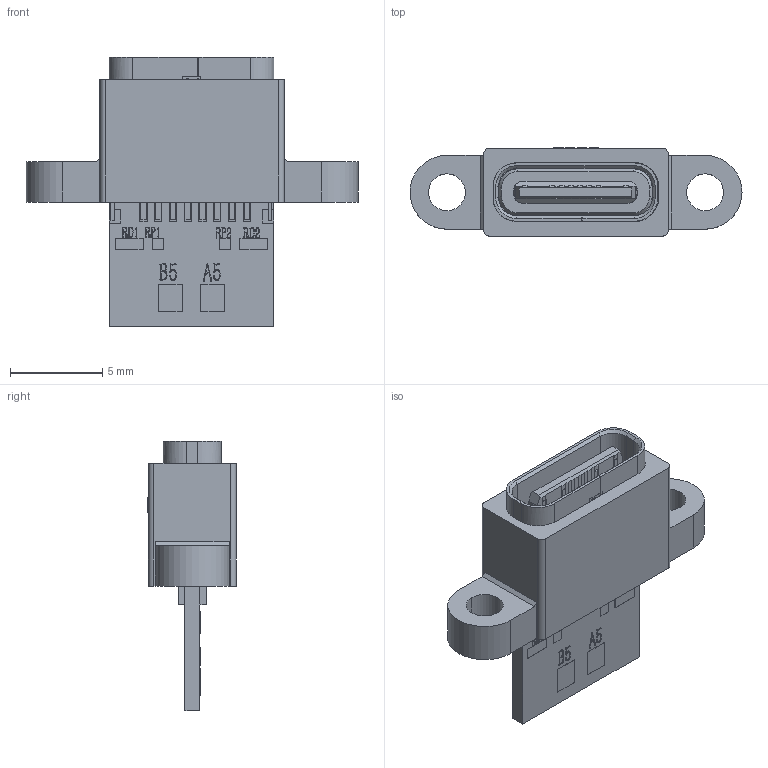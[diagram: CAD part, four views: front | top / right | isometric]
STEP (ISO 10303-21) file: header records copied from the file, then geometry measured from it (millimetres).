
FILE_DESCRIPTION (( 'STEP AP203' ), '1' );
FILE_NAME ('U5285-08PNM0.8B14.6LF.STEP', '2026-09-07T02:46:20', ( '' ), ( '' ), 'SwSTEP 2.0', 'SolidWorks 2024', '' );
FILE_SCHEMA (( 'CONFIG_CONTROL_DESIGN' ));
Products named in the file (1): U5285-08PNM0.8B14.6LF
Bounding box: 18 x 4.79 x 14.6 mm (x, y, z)
Volume: 370.6 mm3; surface area: 941.8 mm2
Topology: 1 solids, 1 shells, 1048 faces, 2982 edges, 1976 vertices
Faces by surface type: plane 751, bspline 219, cylinder 64, cone 14
Entity records: 43269 total; most frequent: CARTESIAN_POINT 17327, ORIENTED_EDGE 5964, DIRECTION 4316, EDGE_CURVE 2982, LINE 2362, VECTOR 2362, VERTEX_POINT 1976, EDGE_LOOP 1106
